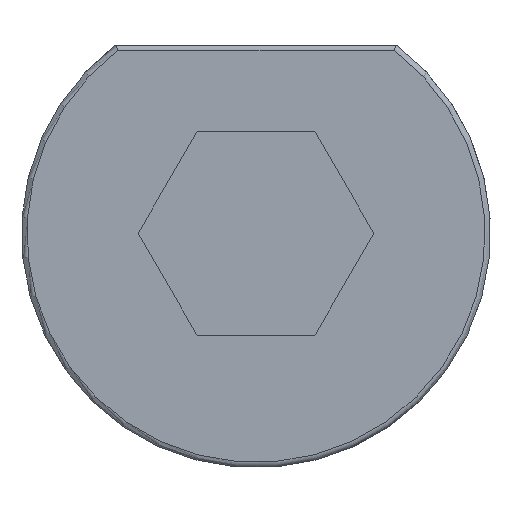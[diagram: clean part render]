
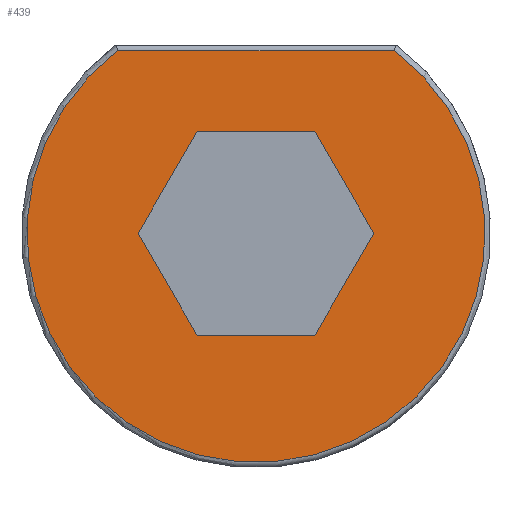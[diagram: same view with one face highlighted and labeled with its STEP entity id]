
A CAD part, front view. The second image highlights one B-rep face of the part: STEP entity #439.
In plain terms, the highlighted planar face has unit normal (0, -1, 0).
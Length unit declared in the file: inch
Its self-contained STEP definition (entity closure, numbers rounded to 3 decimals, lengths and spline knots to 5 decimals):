
#19=FACE_BOUND('',#86,.T.);
#23=PLANE('',#482);
#35=CIRCLE('',#479,0.42);
#59=FACE_OUTER_BOUND('',#85,.T.);
#85=EDGE_LOOP('',(#311,#312));
#86=EDGE_LOOP('',(#313,#314,#315,#316,#317,#318));
#122=LINE('',#652,#157);
#126=LINE('',#696,#161);
#127=LINE('',#698,#162);
#128=LINE('',#700,#163);
#129=LINE('',#702,#164);
#130=LINE('',#704,#165);
#131=LINE('',#705,#166);
#157=VECTOR('',#525,0.3937);
#161=VECTOR('',#541,0.3937);
#162=VECTOR('',#542,0.3937);
#163=VECTOR('',#543,0.3937);
#164=VECTOR('',#544,0.3937);
#165=VECTOR('',#545,0.3937);
#166=VECTOR('',#546,0.3937);
#192=VERTEX_POINT('',#650);
#193=VERTEX_POINT('',#651);
#198=VERTEX_POINT('',#694);
#199=VERTEX_POINT('',#695);
#200=VERTEX_POINT('',#697);
#201=VERTEX_POINT('',#699);
#202=VERTEX_POINT('',#701);
#203=VERTEX_POINT('',#703);
#234=EDGE_CURVE('',#192,#193,#122,.T.);
#239=EDGE_CURVE('',#193,#192,#35,.T.);
#243=EDGE_CURVE('',#198,#199,#126,.T.);
#244=EDGE_CURVE('',#199,#200,#127,.T.);
#245=EDGE_CURVE('',#200,#201,#128,.T.);
#246=EDGE_CURVE('',#201,#202,#129,.T.);
#247=EDGE_CURVE('',#202,#203,#130,.T.);
#248=EDGE_CURVE('',#203,#198,#131,.T.);
#311=ORIENTED_EDGE('',*,*,#234,.F.);
#312=ORIENTED_EDGE('',*,*,#239,.F.);
#313=ORIENTED_EDGE('',*,*,#243,.T.);
#314=ORIENTED_EDGE('',*,*,#244,.T.);
#315=ORIENTED_EDGE('',*,*,#245,.T.);
#316=ORIENTED_EDGE('',*,*,#246,.T.);
#317=ORIENTED_EDGE('',*,*,#247,.T.);
#318=ORIENTED_EDGE('',*,*,#248,.T.);
#439=ADVANCED_FACE('',(#59,#19),#23,.T.);
#479=AXIS2_PLACEMENT_3D('',#686,#531,#532);
#482=AXIS2_PLACEMENT_3D('',#693,#539,#540);
#525=DIRECTION('',(1.,0.,0.));
#531=DIRECTION('center_axis',(0.,1.,0.));
#532=DIRECTION('ref_axis',(0.,0.,-1.));
#539=DIRECTION('center_axis',(0.,-1.,0.));
#540=DIRECTION('ref_axis',(0.,0.,-1.));
#541=DIRECTION('',(1.,0.,0.));
#542=DIRECTION('',(0.5,0.,-0.866));
#543=DIRECTION('',(-0.5,0.,-0.866));
#544=DIRECTION('',(-1.,0.,0.));
#545=DIRECTION('',(-0.5,0.,0.866));
#546=DIRECTION('',(0.5,0.,0.866));
#650=CARTESIAN_POINT('',(-0.25333,0.,0.335));
#651=CARTESIAN_POINT('',(0.25333,0.,0.335));
#652=CARTESIAN_POINT('',(0.23794,0.,0.335));
#686=CARTESIAN_POINT('Origin',(0.,0.,0.));
#693=CARTESIAN_POINT('Origin',(0.,0.,0.));
#694=CARTESIAN_POINT('',(-0.10796,0.,0.187));
#695=CARTESIAN_POINT('',(0.10796,0.,0.187));
#696=CARTESIAN_POINT('',(-0.05398,0.,0.187));
#697=CARTESIAN_POINT('',(0.21593,0.,0.));
#698=CARTESIAN_POINT('',(0.13496,0.,0.14025));
#699=CARTESIAN_POINT('',(0.10796,0.,-0.187));
#700=CARTESIAN_POINT('',(0.18894,0.,-0.04675));
#701=CARTESIAN_POINT('',(-0.10796,0.,-0.187));
#702=CARTESIAN_POINT('',(0.05398,0.,-0.187));
#703=CARTESIAN_POINT('',(-0.21593,0.,0.));
#704=CARTESIAN_POINT('',(-0.13496,0.,-0.14025));
#705=CARTESIAN_POINT('',(-0.18894,0.,0.04675));
